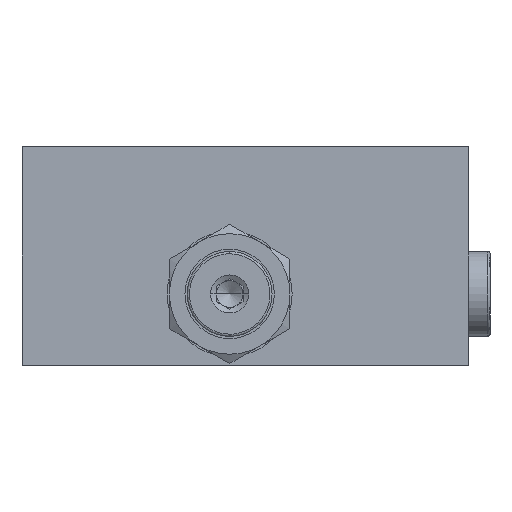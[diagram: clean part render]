
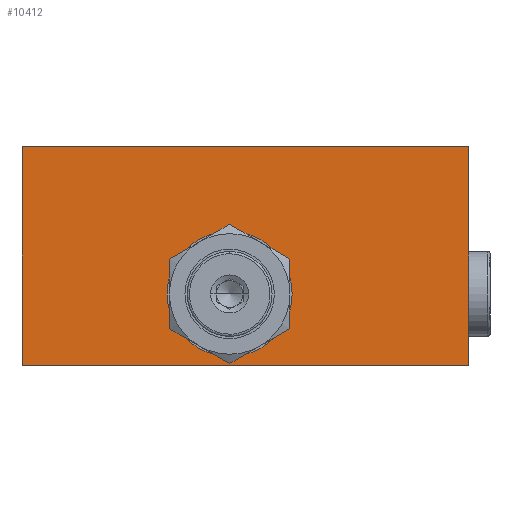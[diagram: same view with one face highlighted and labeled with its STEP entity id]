
A CAD part, left-side view. The second image highlights one B-rep face of the part: STEP entity #10412.
In plain terms, the highlighted planar face has unit normal (-1, 0, 0).
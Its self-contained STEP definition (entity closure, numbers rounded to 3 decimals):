
#146 = CARTESIAN_POINT ( 'NONE',  ( 0., 53.5, 16. ) ) ;
#200 = DIRECTION ( 'NONE',  ( 1., 0., 0. ) ) ;
#431 = ORIENTED_EDGE ( 'NONE', *, *, #10654, .T. ) ;
#894 = FACE_BOUND ( 'NONE', #8238, .T. ) ;
#1283 = CARTESIAN_POINT ( 'NONE',  ( 0., 0., 0. ) ) ;
#1296 = VECTOR ( 'NONE', #5364, 1000. ) ;
#1706 = FACE_OUTER_BOUND ( 'NONE', #10826, .T. ) ;
#1970 = CARTESIAN_POINT ( 'NONE',  ( 0., 0., 0. ) ) ;
#2660 = DIRECTION ( 'NONE',  ( 0., -1., 0. ) ) ;
#2673 = CARTESIAN_POINT ( 'NONE',  ( 0., 50., 49. ) ) ;
#3933 = VERTEX_POINT ( 'NONE', #5596 ) ;
#3935 = DIRECTION ( 'NONE',  ( 1., 0., 0. ) ) ;
#4432 = CARTESIAN_POINT ( 'NONE',  ( 0., 100., 0. ) ) ;
#4458 = CARTESIAN_POINT ( 'NONE',  ( 0., 0., 0. ) ) ;
#4806 = LINE ( 'NONE', #1283, #1296 ) ;
#4981 = CARTESIAN_POINT ( 'NONE',  ( 0., 53.5, 16. ) ) ;
#5364 = DIRECTION ( 'NONE',  ( 0., 0., -1. ) ) ;
#5596 = CARTESIAN_POINT ( 'NONE',  ( 0., 100., 0. ) ) ;
#5620 = LINE ( 'NONE', #2673, #6119 ) ;
#5925 = DIRECTION ( 'NONE',  ( -1., 0., 0. ) ) ;
#5972 = PLANE ( 'NONE',  #10387 ) ;
#6047 = CARTESIAN_POINT ( 'NONE',  ( 0., 67.5, 16. ) ) ;
#6095 = EDGE_CURVE ( 'NONE', #7169, #8325, #9163, .T. ) ;
#6119 = VECTOR ( 'NONE', #13310, 1000. ) ;
#6207 = ORIENTED_EDGE ( 'NONE', *, *, #13154, .F. ) ;
#6321 = AXIS2_PLACEMENT_3D ( 'NONE', #146, #200, #9701 ) ;
#6427 = CARTESIAN_POINT ( 'NONE',  ( 0., 39.5, 16. ) ) ;
#6621 = VERTEX_POINT ( 'NONE', #7649 ) ;
#7169 = VERTEX_POINT ( 'NONE', #6427 ) ;
#7649 = CARTESIAN_POINT ( 'NONE',  ( 0., 100., 49. ) ) ;
#7708 = EDGE_CURVE ( 'NONE', #3933, #6621, #7919, .T. ) ;
#7919 = LINE ( 'NONE', #4432, #12823 ) ;
#8193 = DIRECTION ( 'NONE',  ( 0., -1., 0. ) ) ;
#8238 = EDGE_LOOP ( 'NONE', ( #11165, #431 ) ) ;
#8325 = VERTEX_POINT ( 'NONE', #6047 ) ;
#8477 = LINE ( 'NONE', #1970, #12708 ) ;
#9069 = CARTESIAN_POINT ( 'NONE',  ( 0., 0., 0. ) ) ;
#9163 = CIRCLE ( 'NONE', #10436, 14. ) ;
#9701 = DIRECTION ( 'NONE',  ( 0., -1., 0. ) ) ;
#10387 = AXIS2_PLACEMENT_3D ( 'NONE', #9069, #5925, #2660 ) ;
#10412 = ADVANCED_FACE ( 'NONE', ( #1706, #894 ), #5972, .T. ) ;
#10436 = AXIS2_PLACEMENT_3D ( 'NONE', #4981, #3935, #8193 ) ;
#10654 = EDGE_CURVE ( 'NONE', #8325, #7169, #12617, .T. ) ;
#10826 = EDGE_LOOP ( 'NONE', ( #13169, #6207, #13064, #13101 ) ) ;
#11165 = ORIENTED_EDGE ( 'NONE', *, *, #6095, .T. ) ;
#11477 = VERTEX_POINT ( 'NONE', #13715 ) ;
#11565 = DIRECTION ( 'NONE',  ( 0., -1., 0. ) ) ;
#12074 = DIRECTION ( 'NONE',  ( 0., 0., 1. ) ) ;
#12336 = VERTEX_POINT ( 'NONE', #4458 ) ;
#12617 = CIRCLE ( 'NONE', #6321, 14. ) ;
#12708 = VECTOR ( 'NONE', #11565, 1000. ) ;
#12823 = VECTOR ( 'NONE', #12074, 1000. ) ;
#13064 = ORIENTED_EDGE ( 'NONE', *, *, #13876, .F. ) ;
#13101 = ORIENTED_EDGE ( 'NONE', *, *, #7708, .F. ) ;
#13154 = EDGE_CURVE ( 'NONE', #11477, #12336, #4806, .T. ) ;
#13169 = ORIENTED_EDGE ( 'NONE', *, *, #13389, .T. ) ;
#13310 = DIRECTION ( 'NONE',  ( 0., -1., 0. ) ) ;
#13389 = EDGE_CURVE ( 'NONE', #3933, #12336, #8477, .T. ) ;
#13715 = CARTESIAN_POINT ( 'NONE',  ( 0., 0., 49. ) ) ;
#13876 = EDGE_CURVE ( 'NONE', #6621, #11477, #5620, .T. ) ;
